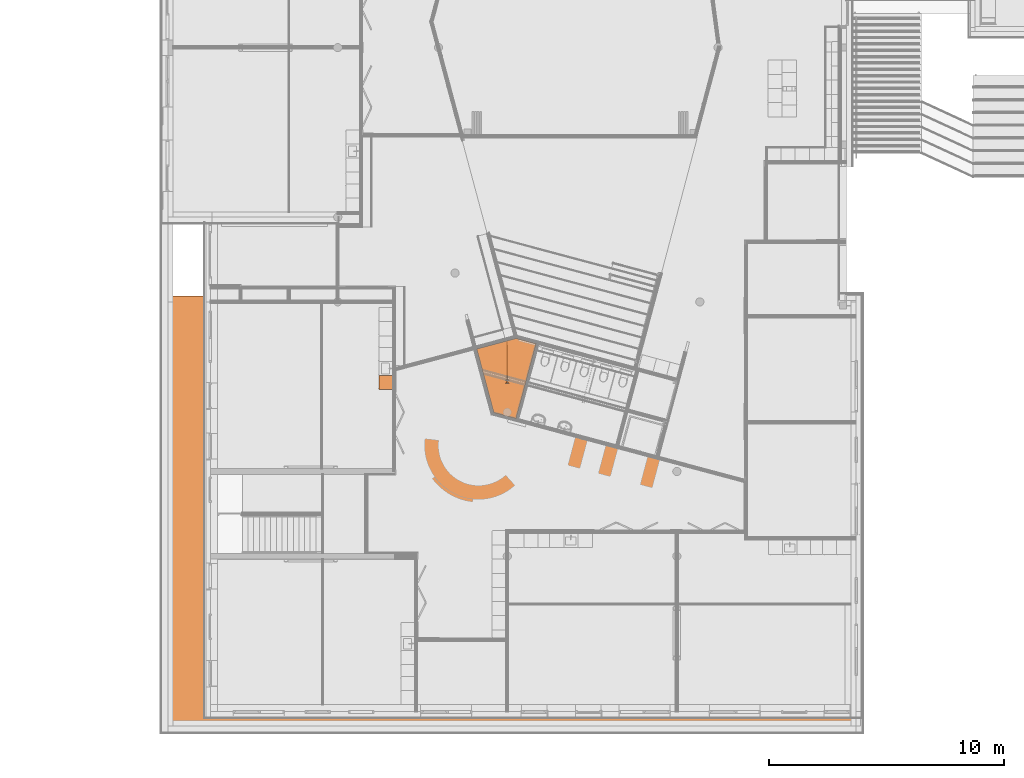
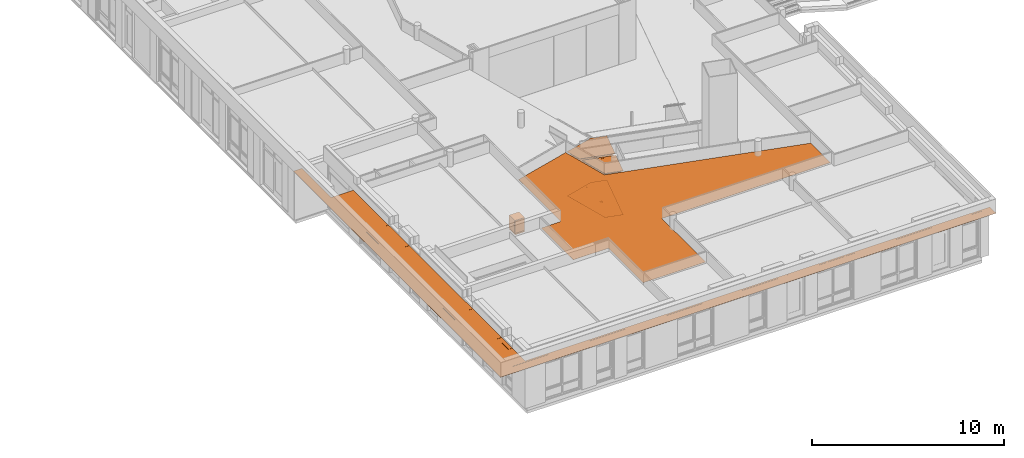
# One storey, part 122 of 167: 6 proxies.
"""IFC2X3 building model written with IfcOpenShell, lengths in millimetres."""

from ifc_helpers import new_model, entity, si_unit, converted_unit, derived_unit, money_unit, direction, frame, origin_with_axes, place, context, subcontext, project, spatial, faceted_brep, material, type_object, element, save


model = new_model("IFC2X3")

# Units and contexts
model_context = context("Model", 3, precision=0.01, world=origin_with_axes(), true_north=direction((0.0, 1.0)))
plan_context = context("Plan", 3, precision=0.01, world=origin_with_axes(), true_north=direction((0.0, 1.0)))
body_context = subcontext(model_context, "Body", "Model", "MODEL_VIEW")
ifc_project = project(units=[si_unit("LENGTHUNIT", "METRE", prefix="MILLI"), si_unit("AREAUNIT", "SQUARE_METRE"), si_unit("VOLUMEUNIT", "CUBIC_METRE"), converted_unit("PLANEANGLEUNIT", "DEGREE", entity("IfcPlaneAngleMeasure", 0.0174532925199), si_unit("PLANEANGLEUNIT", "RADIAN"), dimensions=[0, 0, 0, 0, 0, 0, 0]), si_unit("SOLIDANGLEUNIT", "STERADIAN"), money_unit("EUR"), converted_unit("TIMEUNIT", "Year", entity("IfcTimeMeasure", 31556926.0), si_unit("TIMEUNIT", "SECOND"), dimensions=[0, 0, 1, 0, 0, 0, 0]), si_unit("MASSUNIT", "GRAM", prefix="KILO"), si_unit("THERMODYNAMICTEMPERATUREUNIT", "DEGREE_CELSIUS"), si_unit("LUMINOUSINTENSITYUNIT", "LUMEN"), si_unit("ENERGYUNIT", "JOULE", prefix="MEGA"), derived_unit("THERMALCONDUCTANCEUNIT", [(si_unit("POWERUNIT", "WATT"), 1), (si_unit("LENGTHUNIT", "METRE"), -1), (si_unit("THERMODYNAMICTEMPERATUREUNIT", "KELVIN"), -1)]), derived_unit("SPECIFICHEATCAPACITYUNIT", [(si_unit("ENERGYUNIT", "JOULE"), 1), (si_unit("MASSUNIT", "GRAM", prefix="KILO"), -1), (si_unit("THERMODYNAMICTEMPERATUREUNIT", "KELVIN"), -1)]), derived_unit("MASSDENSITYUNIT", [(si_unit("MASSUNIT", "GRAM", prefix="KILO"), 1), (si_unit("VOLUMEUNIT", "CUBIC_METRE"), -1)])], contexts=[model_context, plan_context])

# Site, building, storey
site_placement = place(None, origin_with_axes())
site = spatial("IfcSite", under=ifc_project, at=site_placement, Name="Site", CompositionType="ELEMENT")
building_placement = place(site_placement, origin_with_axes())
building = spatial("IfcBuilding", under=site, at=building_placement, Name="Naam gebouw", CompositionType="ELEMENT")
storey_placement = place(building_placement, origin_with_axes())
storey = spatial("IfcBuildingStorey", under=building, at=storey_placement, Name="Begane grond", CompositionType="ELEMENT", Elevation=0.0)

# Proxies
building_element_proxy_type_1 = type_object("IfcBuildingElementProxyType", Name="Kast basis 1D 24", PredefinedType="NOTDEFINED")
proxy_1_placement = place(storey_placement, frame((8950.0, 14871.0, 0.0), z_axis=(0.0, 0.0, 1.0), x_axis=(0.0, -1.0, 0.0)))
element("IfcBuildingElementProxy", 1, at=proxy_1_placement, inside=storey, type_object=building_element_proxy_type_1, Name="__Object-x", context=body_context, shape_type="Brep", body=[
    faceted_brep([(0.0, 20.0, 0.0), (580.0, 20.0, 0.0), (580.0, 20.0, 100.0), (0.0, 20.0, 100.0), (0.0, 600.0, 0.0), (580.0, 600.0, 0.0), (580.0, 600.0, 100.0), (0.0, 600.0, 100.0)], [[[0, 1, 2, 3]], [[0, 4, 5, 1]], [[1, 5, 6, 2]], [[3, 2, 6, 7]], [[4, 0, 3, 7]], [[5, 4, 7, 6]]]),
    faceted_brep([(0.0, 20.0, 880.0), (20.0, 20.0, 880.0), (20.0, 20.0, 900.0), (0.0, 20.0, 900.0), (0.0, 600.0, 880.0), (20.0, 600.0, 880.0), (560.0, 600.0, 880.0), (580.0, 600.0, 880.0), (580.0, 20.0, 880.0), (560.0, 20.0, 880.0), (560.0, 20.0, 900.0), (580.0, 20.0, 900.0), (580.0, 600.0, 900.0), (560.0, 600.0, 900.0), (20.0, 600.0, 900.0), (0.0, 600.0, 900.0)], [[[0, 1, 2, 3]], [[0, 4, 5, 6, 7, 8, 9, 1]], [[1, 9, 10, 2]], [[3, 2, 10, 11, 12, 13, 14, 15]], [[4, 0, 3, 15]], [[5, 4, 15, 14]], [[6, 5, 14, 13]], [[7, 6, 13, 12]], [[8, 7, 12, 11]], [[9, 8, 11, 10]]]),
    faceted_brep([(0.0, 20.0, 100.0), (20.0, 20.0, 100.0), (20.0, 20.0, 120.0), (0.0, 20.0, 120.0), (0.0, 600.0, 100.0), (20.0, 600.0, 100.0), (560.0, 600.0, 100.0), (580.0, 600.0, 100.0), (580.0, 20.0, 100.0), (560.0, 20.0, 100.0), (560.0, 20.0, 120.0), (580.0, 20.0, 120.0), (580.0, 600.0, 120.0), (560.0, 600.0, 120.0), (20.0, 600.0, 120.0), (0.0, 600.0, 120.0)], [[[0, 1, 2, 3]], [[0, 4, 5, 6, 7, 8, 9, 1]], [[1, 9, 10, 2]], [[3, 2, 10, 11, 12, 13, 14, 15]], [[4, 0, 3, 15]], [[5, 4, 15, 14]], [[6, 5, 14, 13]], [[7, 6, 13, 12]], [[8, 7, 12, 11]], [[9, 8, 11, 10]]]),
    faceted_brep([(0.0, 20.0, 120.0), (20.0, 20.0, 120.0), (20.0, 20.0, 880.0), (0.0, 20.0, 880.0), (0.0, 600.0, 120.0), (580.0, 600.0, 120.0), (580.0, 20.0, 120.0), (560.0, 20.0, 120.0), (560.0, 580.0, 120.0), (20.0, 580.0, 120.0), (20.0, 580.0, 880.0), (560.0, 580.0, 880.0), (560.0, 20.0, 880.0), (580.0, 20.0, 880.0), (580.0, 600.0, 880.0), (0.0, 600.0, 880.0)], [[[0, 1, 2, 3]], [[0, 4, 5, 6, 7, 8, 9, 1]], [[1, 9, 10, 2]], [[3, 2, 10, 11, 12, 13, 14, 15]], [[4, 0, 3, 15]], [[5, 4, 15, 14]], [[6, 5, 14, 13]], [[7, 6, 13, 12]], [[8, 7, 12, 11]], [[9, 8, 11, 10]]]),
    faceted_brep([(560.0, 20.0, 480.0), (560.0, 580.0, 480.0), (560.0, 580.0, 500.0), (560.0, 20.0, 500.0), (20.0, 20.0, 480.0), (20.0, 580.0, 480.0), (20.0, 580.0, 500.0), (20.0, 20.0, 500.0)], [[[0, 1, 2, 3]], [[0, 4, 5, 1]], [[1, 5, 6, 2]], [[3, 2, 6, 7]], [[4, 0, 3, 7]], [[5, 4, 7, 6]]]),
    faceted_brep([(0.0, 0.0, 900.0), (600.0, 0.0, 900.0), (600.0, 0.0, 920.0), (0.0, 0.0, 920.0), (0.0, 600.0, 900.0), (600.0, 600.0, 900.0), (600.0, 600.0, 920.0), (0.0, 600.0, 920.0)], [[[0, 1, 2, 3]], [[0, 4, 5, 1]], [[1, 5, 6, 2]], [[3, 2, 6, 7]], [[4, 0, 3, 7]], [[5, 4, 7, 6]]]),
    faceted_brep([(1.5, 20.0, 101.5), (578.5, 20.0, 101.5), (578.5, 0.0, 101.5), (1.5, 0.0, 101.5), (1.5, 20.0, 898.5), (578.5, 20.0, 898.5), (578.5, 0.0, 898.5), (1.5, 0.0, 898.5)], [[[0, 1, 2, 3]], [[0, 4, 5, 1]], [[1, 5, 6, 2]], [[3, 2, 6, 7]], [[4, 0, 3, 7]], [[5, 4, 7, 6]]]),
    faceted_brep([(539.58655439, 0.0, 636.907798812), (536.985281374, 0.0, 633.014718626), (533.092201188, 0.0, 630.41344561), (528.5, 0.0, 629.5), (523.907798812, 0.0, 630.41344561), (520.014718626, 0.0, 633.014718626), (517.41344561, 0.0, 636.907798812), (516.5, 0.0, 641.5), (517.41344561, 0.0, 646.092201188), (520.014718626, 0.0, 649.985281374), (523.907798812, 0.0, 652.58655439), (528.5, 0.0, 653.5), (533.092201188, 0.0, 652.58655439), (536.985281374, 0.0, 649.985281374), (539.58655439, 0.0, 646.092201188), (540.5, 0.0, 641.5), (539.58655439, -25.0, 636.907798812), (536.985281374, -25.0, 633.014718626), (533.092201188, -25.0, 630.41344561), (528.5, -25.0, 629.5), (523.907798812, -25.0, 630.41344561), (520.014718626, -25.0, 633.014718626), (517.41344561, -25.0, 636.907798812), (516.5, -25.0, 641.5), (517.41344561, -25.0, 646.092201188), (520.014718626, -25.0, 649.985281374), (523.907798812, -25.0, 652.58655439), (528.5, -25.0, 653.5), (533.092201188, -25.0, 652.58655439), (536.985281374, -25.0, 649.985281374), (539.58655439, -25.0, 646.092201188), (540.5, -25.0, 641.5)], [[[0, 1, 2, 3, 4, 5, 6, 7, 8, 9, 10, 11, 12, 13, 14, 15]], [[1, 0, 16, 17]], [[2, 1, 17, 18]], [[3, 2, 18, 19]], [[4, 3, 19, 20]], [[5, 4, 20, 21]], [[6, 5, 21, 22]], [[7, 6, 22, 23]], [[8, 7, 23, 24]], [[9, 8, 24, 25]], [[10, 9, 25, 26]], [[11, 10, 26, 27]], [[12, 11, 27, 28]], [[13, 12, 28, 29]], [[14, 13, 29, 30]], [[15, 14, 30, 31]], [[0, 15, 31, 16]], [[16, 31, 30, 29, 28, 27, 26, 25, 24, 23, 22, 21, 20, 19, 18, 17]]]),
    faceted_brep([(580.0, 21.5, 101.5), (580.0, 598.5, 101.5), (600.0, 598.5, 101.5), (600.0, 21.5, 101.5), (580.0, 21.5, 898.5), (580.0, 598.5, 898.5), (600.0, 598.5, 898.5), (600.0, 21.5, 898.5)], [[[0, 1, 2, 3]], [[0, 4, 5, 1]], [[1, 5, 6, 2]], [[3, 2, 6, 7]], [[4, 0, 3, 7]], [[5, 4, 7, 6]]]),
])
ifc_material_1 = material(Name="ALG - BINNENAFWERKING")
building_element_proxy_type_2 = type_object("IfcBuildingElementProxyType", Name="ALG - BINNENAFWERKING 10", PredefinedType="NOTDEFINED")
proxy_2_placement = place(storey_placement, frame((13095.9762398, 16006.1820437, 2800.0), z_axis=(0.0, 0.0, 1.0), x_axis=(1.0, 0.0, 0.0)))
element("IfcBuildingElementProxy", 2, at=proxy_2_placement, inside=storey, type_object=building_element_proxy_type_2, material=ifc_material_1, Name="23__Vloer-x", context=body_context, shape_type="Brep", body=[
    faceted_brep([(1299.26611812, -1338.18204373, 10.0), (1301.27376021, -1338.7199898, 10.0), (1301.27376021, -1338.7199898, 0.0), (1299.26611812, -1338.18204373, 0.0), (2062.63461392, -1542.72601571, 10.0), (1306.77376021, -1340.19371036, 10.0), (1306.77376021, -1454.18204373, 10.0), (1374.02376021, -1454.18204373, 10.0), (1374.02376021, -1462.68204373, 10.0), (1234.02376021, -1462.68204373, 10.0), (1234.02376021, -1454.18204373, 10.0), (1301.27376021, -1454.18204373, 10.0), (1234.02376021, -1338.18204373, 10.0), (1234.02376021, -1329.68204373, 10.0), (1267.54368626, -1329.68204373, 10.0), (285.8012976, -1066.62496351, 10.0), (726.610564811, -2711.74754519, 10.0), (1680.88259029, -2967.44396378, 10.0), (1301.27376021, -1454.18204373, 0.0), (1374.02376021, -1454.18204373, 0.0), (1306.77376021, -1454.18204373, 0.0), (1306.77376021, -1340.19371036, 0.0), (2062.63461392, -1542.72601571, 0.0), (1680.88259029, -2967.44396378, 0.0), (726.610564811, -2711.74754519, 0.0), (285.8012976, -1066.62496351, 0.0), (1267.54368626, -1329.68204373, 0.0), (1234.02376021, -1329.68204373, 0.0), (1234.02376021, -1338.18204373, 0.0), (1234.02376021, -1454.18204373, 0.0), (1234.02376021, -1462.68204373, 0.0), (1374.02376021, -1462.68204373, 0.0)], [[[0, 1, 2, 3]], [[4, 5, 6, 7, 8, 9, 10, 11, 1, 0, 12, 13, 14, 15, 16, 17]], [[18, 2, 1, 11]], [[19, 20, 21, 22, 23, 24, 25, 26, 27, 28, 3, 2, 18, 29, 30, 31]], [[28, 12, 0, 3]], [[22, 21, 5, 4]], [[20, 6, 5, 21]], [[19, 7, 6, 20]], [[31, 8, 7, 19]], [[30, 9, 8, 31]], [[29, 10, 9, 30]], [[18, 11, 10, 29]], [[27, 13, 12, 28]], [[27, 26, 14, 13]], [[15, 14, 26, 25]], [[24, 16, 15, 25]], [[23, 17, 16, 24]], [[17, 23, 22, 4]]]),
    faceted_brep([(1678.21540986, 449.676463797, 10.0), (0.0, 0.0, 10.0), (240.972529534, -899.321704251, 10.0), (2101.45747068, -1397.83714176, 10.0), (2534.98402997, 220.106003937, 10.0), (0.0, 0.0, 0.0), (1678.21540986, 449.676463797, 0.0), (240.972529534, -899.321704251, 0.0), (2101.45747068, -1397.83714176, 0.0), (2534.98402997, 220.106003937, 0.0)], [[[0, 1, 2, 3, 4]], [[5, 1, 0, 6]], [[1, 5, 7, 2]], [[2, 7, 8, 3]], [[9, 4, 3, 8]], [[6, 0, 4, 9]], [[6, 9, 8, 7, 5]]]),
])
proxy_3_placement = place(storey_placement, frame((-324.0, -324.0, 3045.0), z_axis=(0.0, 0.0, 1.0), x_axis=(1.0, 0.0, 0.0)))
element("IfcBuildingElementProxy", 3, at=proxy_3_placement, inside=storey, type_object=building_element_proxy_type_2, material=ifc_material_1, Name="23__Vloer-x", context=body_context, shape_type="Brep", body=[
    faceted_brep([(23815.7554346, 649.999999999, 10.0), (23815.7554346, 649.999999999, 5.0), (23833.7554346, 649.999999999, 5.0), (23833.7554346, 649.999999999, 10.0), (24902.7554346, 649.999999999, 10.0), (24902.7554346, 649.999999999, 5.0), (24920.7554346, 649.999999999, 5.0), (24920.7554346, 649.999999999, 10.0), (28181.5740559, 649.999999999, 10.0), (28181.5740559, 649.999999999, 5.0), (28199.5740559, 649.999999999, 5.0), (28199.5740559, 649.999999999, 10.0), (29304.5740559, 649.999999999, 10.0), (29304.5740559, 649.999999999, 5.0), (29848.0, 649.999999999, 5.0), (29848.0, 649.999999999, 0.0), (1850.0, 650.0, 0.0), (1850.0, 650.0, 10.0), (11524.6916577, 650.0, 10.0), (11524.6916577, 649.999999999, 5.0), (11542.6916577, 649.999999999, 5.0), (11542.6916577, 650.0, 10.0), (12647.6916577, 650.0, 10.0), (12647.6916577, 649.999999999, 5.0), (12665.6916577, 649.999999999, 5.0), (12665.6916577, 650.0, 10.0), (15313.6140559, 650.0, 10.0), (15313.6140559, 649.999999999, 5.0), (15331.6140559, 649.999999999, 5.0), (15331.6140559, 650.0, 10.0), (16436.6140559, 650.0, 10.0), (16436.6140559, 649.999999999, 5.0), (16454.6140559, 649.999999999, 5.0), (16454.6140559, 650.0, 10.0), (17611.4640559, 650.0, 10.0), (17611.4640559, 649.999999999, 5.0), (17629.4640559, 649.999999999, 5.0), (17629.4640559, 650.0, 10.0), (18734.4640559, 650.0, 10.0), (18734.4640559, 649.999999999, 5.0), (18752.4640559, 649.999999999, 5.0), (18752.4640559, 650.0, 10.0), (19974.7944254, 650.0, 10.0), (19974.7944254, 649.999999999, 5.0), (19992.7944254, 649.999999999, 5.0), (19992.7944254, 650.0, 10.0), (21061.7944254, 650.0, 10.0), (21061.7944254, 649.999999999, 5.0), (21079.7944254, 649.999999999, 5.0), (21079.7944254, 650.0, 10.0), (23815.7554346, 538.0, 5.0), (23815.7554346, 538.0, 10.0), (24902.7554346, 538.0, 5.0), (23833.7554346, 538.0, 5.0), (21079.7944254, 538.0, 5.0), (21061.7944254, 538.0, 5.0), (19992.7944254, 538.0, 5.0), (19974.7944254, 538.0, 5.0), (18752.4640559, 538.0, 5.0), (18734.4640559, 538.0, 5.0), (17629.4640559, 538.0, 5.0), (17611.4640559, 538.0, 5.0), (16454.6140559, 538.0, 5.0), (16436.6140559, 538.0, 5.0), (15331.6140559, 538.0, 5.0), (15313.6140559, 538.0, 5.0), (12665.6916577, 538.0, 5.0), (12647.6916577, 538.0, 5.0), (11542.6916577, 538.0, 5.0), (11524.6916577, 538.0, 5.0), (538.0, 538.0, 5.0), (538.0, 18580.0, 5.0), (522.27012801, 18580.0, 5.0), (522.27012801, 21640.0, 5.0), (0.0, 21640.0, 5.0), (0.0, 0.0, 5.0), (20.0, 0.0, 5.0), (29828.0, 0.0, 5.0), (29848.0, 0.0, 5.0), (29304.5740559, 538.0, 5.0), (28199.5740559, 538.0, 5.0), (28181.5740559, 538.0, 5.0), (24920.7554346, 538.0, 5.0), (23833.7554346, 538.0, 10.0), (24902.7554346, 538.0, 10.0), (24920.7554346, 538.0, 10.0), (28181.5740559, 538.0, 10.0), (28199.5740559, 538.0, 10.0), (29304.5740559, 538.0, 10.0), (29848.0, 0.0, 0.0), (0.0, 0.0, 0.0), (0.0, 21640.0, 0.0), (522.27012801, 21640.0, 0.0), (522.27012801, 18580.0, 0.0), (1850.0, 18580.0, 0.0), (1850.0, 3104.56471311, 5.0), (1850.0, 3086.56471311, 5.0), (1850.0, 3086.56471311, 10.0), (1850.0, 1981.56471311, 10.0), (1850.0, 1981.56471311, 5.0), (1850.0, 1963.56471311, 5.0), (1850.0, 1963.56471311, 10.0), (1850.0, 18580.0, 10.0), (1850.0, 14905.1947131, 10.0), (1850.0, 14905.1947131, 5.0), (1850.0, 14887.1947131, 5.0), (1850.0, 14887.1947131, 10.0), (1850.0, 13782.1947131, 10.0), (1850.0, 13782.1947131, 5.0), (1850.0, 13764.1947131, 5.0), (1850.0, 13764.1947131, 10.0), (1850.0, 12755.5347131, 10.0), (1850.0, 12755.5347131, 5.0), (1850.0, 12737.5347131, 5.0), (1850.0, 12737.5347131, 10.0), (1850.0, 11632.5347131, 10.0), (1850.0, 11632.5347131, 5.0), (1850.0, 11614.5347131, 5.0), (1850.0, 11614.5347131, 10.0), (1850.0, 7240.69471311, 10.0), (1850.0, 7240.69471311, 5.0), (1850.0, 7222.69471311, 5.0), (1850.0, 7222.69471311, 10.0), (1850.0, 6117.69471311, 10.0), (1850.0, 6117.69471311, 5.0), (1850.0, 6099.69471311, 5.0), (1850.0, 6099.69471311, 10.0), (1850.0, 3104.56471311, 10.0), (1594.0, 3104.56471311, 10.0), (1612.0, 3104.56471311, 10.0), (1612.0, 6099.69471311, 10.0), (1594.0, 6099.69471311, 10.0), (1594.0, 7240.69471311, 10.0), (1612.0, 7240.69471311, 10.0), (1612.0, 11614.5347131, 10.0), (1594.0, 11614.5347131, 10.0), (1594.0, 12755.5347131, 10.0), (1612.0, 12755.5347131, 10.0), (1612.0, 13764.1947131, 10.0), (1594.0, 13764.1947131, 10.0), (1594.0, 14905.1947131, 10.0), (1612.0, 14905.1947131, 10.0), (538.0, 18580.0, 10.0), (538.0, 538.0, 10.0), (11524.6916577, 538.0, 10.0), (1612.0, 1963.56471311, 10.0), (1594.0, 1963.56471311, 10.0), (11542.6916577, 538.0, 10.0), (12647.6916577, 538.0, 10.0), (12665.6916577, 538.0, 10.0), (15313.6140559, 538.0, 10.0), (15331.6140559, 538.0, 10.0), (16436.6140559, 538.0, 10.0), (16454.6140559, 538.0, 10.0), (17611.4640559, 538.0, 10.0), (17629.4640559, 538.0, 10.0), (18734.4640559, 538.0, 10.0), (18752.4640559, 538.0, 10.0), (19974.7944254, 538.0, 10.0), (19992.7944254, 538.0, 10.0), (21061.7944254, 538.0, 10.0), (21079.7944254, 538.0, 10.0), (1612.0, 1981.56471311, 5.0), (1612.0, 3086.56471311, 5.0), (1612.0, 3104.56471311, 5.0), (1594.0, 3104.56471311, 5.0), (1594.0, 1963.56471311, 5.0), (1612.0, 1963.56471311, 5.0), (1612.0, 3086.56471311, 10.0), (1612.0, 1981.56471311, 10.0), (1612.0, 14905.1947131, 5.0), (1612.0, 13782.1947131, 5.0), (1612.0, 14887.1947131, 5.0), (1594.0, 14905.1947131, 5.0), (1594.0, 13764.1947131, 5.0), (1612.0, 13764.1947131, 5.0), (1612.0, 14887.1947131, 10.0), (1612.0, 13782.1947131, 10.0), (1612.0, 12755.5347131, 5.0), (1612.0, 11632.5347131, 5.0), (1612.0, 12737.5347131, 5.0), (1594.0, 12755.5347131, 5.0), (1594.0, 11614.5347131, 5.0), (1612.0, 11614.5347131, 5.0), (1612.0, 12737.5347131, 10.0), (1612.0, 11632.5347131, 10.0), (1612.0, 7240.69471311, 5.0), (1612.0, 6117.69471311, 5.0), (1612.0, 7222.69471311, 5.0), (1594.0, 7240.69471311, 5.0), (1594.0, 6099.69471311, 5.0), (1612.0, 6099.69471311, 5.0), (1612.0, 7222.69471311, 10.0), (1612.0, 6117.69471311, 10.0)], [[[0, 1, 2, 3, 4, 5, 6, 7, 8, 9, 10, 11, 12, 13, 14, 15, 16, 17, 18, 19, 20, 21, 22, 23, 24, 25, 26, 27, 28, 29, 30, 31, 32, 33, 34, 35, 36, 37, 38, 39, 40, 41, 42, 43, 44, 45, 46, 47, 48, 49]], [[50, 1, 0, 51]], [[52, 53, 2, 1, 50, 54, 48, 47, 55, 56, 44, 43, 57, 58, 40, 39, 59, 60, 36, 35, 61, 62, 32, 31, 63, 64, 28, 27, 65, 66, 24, 23, 67, 68, 20, 19, 69, 70, 71, 72, 73, 74, 75, 76, 77, 78, 14, 13, 79, 80, 10, 9, 81, 82, 6, 5]], [[53, 83, 3, 2]], [[4, 3, 83, 84]], [[52, 5, 4, 84]], [[82, 85, 7, 6]], [[8, 7, 85, 86]], [[81, 9, 8, 86]], [[80, 87, 11, 10]], [[12, 11, 87, 88]], [[79, 13, 12, 88]], [[15, 14, 78, 89]], [[15, 89, 90, 91, 92, 93, 94, 16]], [[95, 96, 97, 98, 99, 100, 101, 17, 16, 94, 102, 103, 104, 105, 106, 107, 108, 109, 110, 111, 112, 113, 114, 115, 116, 117, 118, 119, 120, 121, 122, 123, 124, 125, 126, 127]], [[128, 129, 127, 126, 130, 131, 132, 133, 119, 118, 134, 135, 136, 137, 111, 110, 138, 139, 140, 141, 103, 102, 142, 143, 144, 18, 17, 101, 145, 146]], [[69, 19, 18, 144]], [[68, 147, 21, 20]], [[22, 21, 147, 148]], [[67, 23, 22, 148]], [[66, 149, 25, 24]], [[26, 25, 149, 150]], [[65, 27, 26, 150]], [[64, 151, 29, 28]], [[30, 29, 151, 152]], [[63, 31, 30, 152]], [[62, 153, 33, 32]], [[153, 154, 34, 33]], [[61, 35, 34, 154]], [[60, 155, 37, 36]], [[38, 37, 155, 156]], [[59, 39, 38, 156]], [[58, 157, 41, 40]], [[157, 158, 42, 41]], [[57, 43, 42, 158]], [[56, 159, 45, 44]], [[46, 45, 159, 160]], [[55, 47, 46, 160]], [[54, 161, 49, 48]], [[161, 51, 0, 49]], [[54, 50, 51, 161]], [[84, 83, 53, 52]], [[160, 159, 56, 55]], [[58, 57, 158, 157]], [[156, 155, 60, 59]], [[62, 61, 154, 153]], [[152, 151, 64, 63]], [[150, 149, 66, 65]], [[148, 147, 68, 67]], [[70, 69, 144, 143]], [[71, 70, 143, 142]], [[93, 72, 71, 142, 102, 94]], [[92, 73, 72, 93]], [[91, 74, 73, 92]], [[90, 75, 74, 91]], [[78, 77, 76, 75, 90, 89]], [[88, 87, 80, 79]], [[86, 85, 82, 81]], [[162, 163, 96, 95, 164, 165, 166, 167, 100, 99]], [[163, 168, 97, 96]], [[98, 97, 168, 169]], [[162, 99, 98, 169]], [[167, 145, 101, 100]], [[170, 104, 103, 141]], [[171, 172, 105, 104, 170, 173, 174, 175, 109, 108]], [[172, 176, 106, 105]], [[107, 106, 176, 177]], [[171, 108, 107, 177]], [[175, 138, 110, 109]], [[178, 112, 111, 137]], [[179, 180, 113, 112, 178, 181, 182, 183, 117, 116]], [[180, 184, 114, 113]], [[115, 114, 184, 185]], [[179, 116, 115, 185]], [[183, 134, 118, 117]], [[186, 120, 119, 133]], [[187, 188, 121, 120, 186, 189, 190, 191, 125, 124]], [[188, 192, 122, 121]], [[123, 122, 192, 193]], [[187, 124, 123, 193]], [[191, 130, 126, 125]], [[164, 95, 127, 129]], [[165, 164, 129, 128]], [[131, 130, 191, 190]], [[189, 132, 131, 190]], [[189, 186, 133, 132]], [[135, 134, 183, 182]], [[181, 136, 135, 182]], [[181, 178, 137, 136]], [[139, 138, 175, 174]], [[173, 140, 139, 174]], [[173, 170, 141, 140]], [[146, 145, 167, 166]], [[165, 128, 146, 166]], [[169, 168, 163, 162]], [[177, 176, 172, 171]], [[185, 184, 180, 179]], [[193, 192, 188, 187]]]),
])
proxy_4_placement = place(storey_placement, frame((9650.0000771, 10674.9999131, 2800.0), z_axis=(0.0, 0.0, 1.0), x_axis=(1.0, 0.0, 0.0)))
element("IfcBuildingElementProxy", 4, at=proxy_4_placement, inside=storey, type_object=building_element_proxy_type_2, material=ifc_material_1, Name="23__Vloer-x", context=body_context, shape_type="Brep", body=[
    faceted_brep([(4090.93706941, 2537.78492733, 10.0), (4090.93706941, 2537.78492733, 0.0), (3349.38358212, 5305.30021844, 0.0), (3349.38358212, 5305.30021844, 10.0), (14849.9999229, -345.097220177, 10.0), (14849.9999229, -345.097220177, 0.0), (0.0, 4407.83553156, 0.0), (14849.9999229, -2401.65201251, 0.0), (4700.00000053, -2401.65201251, 0.0), (4700.00000053, -6974.99991312, 0.0), (931.827110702, -6974.99991312, 0.0), (931.827110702, -3349.99985553, 0.0), (-1180.74791788, -3349.99985553, 0.0), (-1180.74791788, 0.0, 0.0), (0.0, 0.0, 0.0), (0.0, 4407.83553156, 10.0), (0.0, 0.0, 10.0), (-1180.74791788, 0.0, 10.0), (-1180.74791788, -3349.99985553, 10.0), (931.827110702, -3349.99985553, 10.0), (931.827110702, -6974.99991312, 10.0), (4700.00000053, -6974.99991312, 10.0), (4700.00000053, -2401.65201251, 10.0), (14849.9999229, -2401.65201251, 10.0)], [[[0, 1, 2, 3]], [[0, 4, 5, 1]], [[6, 2, 1, 5, 7, 8, 9, 10, 11, 12, 13, 14]], [[15, 3, 2, 6]], [[0, 3, 15, 16, 17, 18, 19, 20, 21, 22, 23, 4]], [[4, 23, 7, 5]], [[23, 22, 8, 7]], [[22, 21, 9, 8]], [[21, 20, 10, 9]], [[20, 19, 11, 10]], [[19, 18, 12, 11]], [[18, 17, 13, 12]], [[17, 16, 14, 13]], [[16, 15, 6, 14]]]),
])
building_element_proxy_type_3 = type_object("IfcBuildingElementProxyType", Name="ALG - BINNENAFWERKING 20", PredefinedType="NOTDEFINED")
proxy_5_placement = place(storey_placement, frame((13822.5868046, 13294.4344985, 2490.0), z_axis=(0.0, 0.0, 1.0), x_axis=(1.0, 0.0, 0.0)))
element("IfcBuildingElementProxy", 5, at=proxy_5_placement, inside=storey, type_object=building_element_proxy_type_3, material=ifc_material_1, Name="23__Vloer-x", context=body_context, shape_type="Brep", body=[
    faceted_brep([(1808.37346516, 2931.85354913, 0.0), (951.604845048, 3161.42400899, 0.0), (-726.610564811, 2711.74754519, 0.0), (0.0, 0.0, 0.0), (954.272025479, -255.696418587, 0.0), (507.413195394, 1373.56550146, 0.0), (507.413195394, 1382.06550146, 0.0), (574.663195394, 1382.06550146, 0.0), (574.663195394, 3002.06550146, 0.0), (580.163195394, 3002.06550146, 0.0), (580.163195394, 1382.06550146, 0.0), (647.413195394, 1382.06550146, 0.0), (647.413195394, 1373.56550146, 0.0), (580.163195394, 1373.56550146, 0.0), (580.163195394, 1257.56550146, 0.0), (647.413195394, 1257.56550146, 0.0), (647.413195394, 1249.06550146, 0.0), (507.413195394, 1249.06550146, 0.0), (507.413195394, 1257.56550146, 0.0), (574.663195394, 1257.56550146, 0.0), (574.663195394, 1373.56550146, 0.0), (951.604845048, 3161.42400899, -20.0), (1808.37346516, 2931.85354913, -20.0), (-726.610564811, 2711.74754519, -20.0), (0.0, 0.0, -20.0), (954.272025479, -255.696418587, -20.0), (507.413195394, 1382.06550146, -20.0), (507.413195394, 1373.56550146, -20.0), (574.663195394, 1382.06550146, -20.0), (574.663195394, 3002.06550146, -20.0), (580.163195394, 3002.06550146, -20.0), (580.163195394, 1382.06550146, -20.0), (647.413195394, 1382.06550146, -20.0), (647.413195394, 1373.56550146, -20.0), (580.163195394, 1373.56550146, -20.0), (580.163195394, 1257.56550146, -20.0), (647.413195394, 1257.56550146, -20.0), (647.413195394, 1249.06550146, -20.0), (507.413195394, 1249.06550146, -20.0), (507.413195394, 1257.56550146, -20.0), (574.663195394, 1257.56550146, -20.0), (574.663195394, 1373.56550146, -20.0)], [[[0, 1, 2, 3, 4], [5, 6, 7, 8, 9, 10, 11, 12, 13, 14, 15, 16, 17, 18, 19, 20]], [[21, 1, 0, 22]], [[23, 2, 1, 21]], [[24, 3, 2, 23]], [[25, 4, 3, 24]], [[22, 0, 4, 25]], [[26, 6, 5, 27]], [[26, 28, 7, 6]], [[8, 7, 28, 29]], [[29, 30, 9, 8]], [[30, 31, 10, 9]], [[32, 11, 10, 31]], [[33, 12, 11, 32]], [[34, 13, 12, 33]], [[35, 14, 13, 34]], [[36, 15, 14, 35]], [[37, 16, 15, 36]], [[38, 17, 16, 37]], [[39, 18, 17, 38]], [[40, 19, 18, 39]], [[41, 20, 19, 40]], [[27, 5, 20, 41]], [[21, 22, 25, 24, 23], [33, 32, 31, 30, 29, 28, 26, 27, 41, 40, 39, 38, 37, 36, 35, 34]]]),
])
ifc_material_2 = material(Name="_TenW_43_Marmoleum Salsa Verde")
building_element_proxy_type_4 = type_object("IfcBuildingElementProxyType", Name="_TenW_43_Marmoleum Salsa Verde 2", PredefinedType="NOTDEFINED")
proxy_6_placement = place(storey_placement, frame((13099.1823556, 15994.2166566, 0.0), z_axis=(0.0, 0.0, 1.0), x_axis=(1.0, 0.0, 0.0)))
element("IfcBuildingElementProxy", 6, at=proxy_6_placement, inside=storey, type_object=building_element_proxy_type_4, material=ifc_material_2, Name="23__Vloer-x", context=body_context, shape_type="Brep", body=[
    faceted_brep([(723.404449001, -2699.78215809, 0.0), (0.0, 0.0, 0.0), (1675.20278611, 461.590004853, 0.0), (2531.77791416, 232.071391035, 0.0), (1677.67647448, -2955.47857668, 0.0), (1303.5676444, -1442.21665663, 0.0), (1303.5676444, -1326.21665663, 0.0), (1370.8176444, -1326.21665663, 0.0), (1370.8176444, -1317.71665663, 0.0), (1230.8176444, -1317.71665663, 0.0), (1230.8176444, -1326.21665663, 0.0), (1298.0676444, -1326.21665663, 0.0), (1298.0676444, -1442.21665663, 0.0), (1230.8176444, -1442.21665663, 0.0), (1230.8176444, -1450.71665663, 0.0), (1370.8176444, -1450.71665663, 0.0), (1370.8176444, -1442.21665663, 0.0), (1303.5676444, 177.783343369, 0.0), (1303.5676444, 293.783343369, 0.0), (1370.8176444, 293.783343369, 0.0), (1370.8176444, 302.283343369, 0.0), (1230.8176444, 302.283343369, 0.0), (1230.8176444, 293.783343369, 0.0), (1298.0676444, 293.783343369, 0.0), (1298.0676444, 177.783343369, 0.0), (1230.8176444, 177.783343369, 0.0), (1230.8176444, 169.283343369, 0.0), (1370.8176444, 169.283343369, 0.0), (1370.8176444, 177.783343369, 0.0), (723.404449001, -2699.78215809, 2.0), (0.0, 0.0, 2.0), (1675.20278611, 461.590004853, 2.0), (2531.77791416, 232.071391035, 2.0), (1677.67647448, -2955.47857668, 2.0), (1303.5676444, -1442.21665663, 2.0), (1303.5676444, -1326.21665663, 2.0), (1370.8176444, -1326.21665663, 2.0), (1370.8176444, -1317.71665663, 2.0), (1230.8176444, -1317.71665663, 2.0), (1230.8176444, -1326.21665663, 2.0), (1298.0676444, -1326.21665663, 2.0), (1298.0676444, -1442.21665663, 2.0), (1230.8176444, -1442.21665663, 2.0), (1230.8176444, -1450.71665663, 2.0), (1370.8176444, -1450.71665663, 2.0), (1370.8176444, -1442.21665663, 2.0), (1303.5676444, 177.783343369, 2.0), (1303.5676444, 293.783343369, 2.0), (1370.8176444, 293.783343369, 2.0), (1370.8176444, 302.283343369, 2.0), (1230.8176444, 302.283343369, 2.0), (1230.8176444, 293.783343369, 2.0), (1298.0676444, 293.783343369, 2.0), (1298.0676444, 177.783343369, 2.0), (1230.8176444, 177.783343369, 2.0), (1230.8176444, 169.283343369, 2.0), (1370.8176444, 169.283343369, 2.0), (1370.8176444, 177.783343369, 2.0)], [[[0, 1, 2, 3, 4], [5, 6, 7, 8, 9, 10, 11, 12, 13, 14, 15, 16], [17, 18, 19, 20, 21, 22, 23, 24, 25, 26, 27, 28]], [[0, 29, 30, 1]], [[1, 30, 31, 2]], [[3, 2, 31, 32]], [[33, 4, 3, 32]], [[4, 33, 29, 0]], [[5, 34, 35, 6]], [[6, 35, 36, 7]], [[7, 36, 37, 8]], [[8, 37, 38, 9]], [[9, 38, 39, 10]], [[10, 39, 40, 11]], [[11, 40, 41, 12]], [[12, 41, 42, 13]], [[13, 42, 43, 14]], [[14, 43, 44, 15]], [[15, 44, 45, 16]], [[16, 45, 34, 5]], [[17, 46, 47, 18]], [[18, 47, 48, 19]], [[19, 48, 49, 20]], [[20, 49, 50, 21]], [[21, 50, 51, 22]], [[22, 51, 52, 23]], [[23, 52, 53, 24]], [[24, 53, 54, 25]], [[25, 54, 55, 26]], [[26, 55, 56, 27]], [[27, 56, 57, 28]], [[28, 57, 46, 17]], [[29, 33, 32, 31, 30], [40, 39, 38, 37, 36, 35, 34, 45, 44, 43, 42, 41], [52, 51, 50, 49, 48, 47, 46, 57, 56, 55, 54, 53]]]),
])

save(model, "model.ifc")
